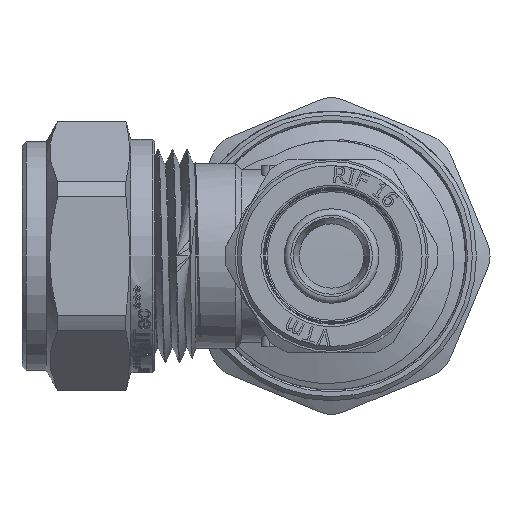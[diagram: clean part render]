
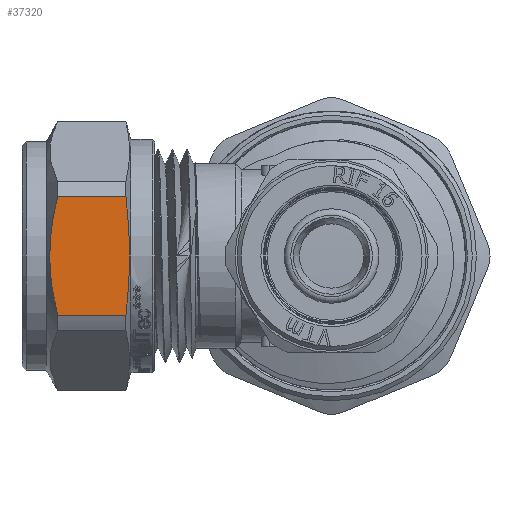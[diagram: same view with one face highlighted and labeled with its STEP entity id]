
A CAD part, left-side view. The second image highlights one B-rep face of the part: STEP entity #37320.
In plain terms, the highlighted planar face has unit normal (-1, 0, 0).
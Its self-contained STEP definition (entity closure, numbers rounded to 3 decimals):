
#132=(
BOUNDED_CURVE()
B_SPLINE_CURVE(2,(#83810,#83811,#83812),.UNSPECIFIED.,.F.,.F.)
B_SPLINE_CURVE_WITH_KNOTS((3,3),(0.,0.739),.UNSPECIFIED.)
CURVE()
GEOMETRIC_REPRESENTATION_ITEM()
RATIONAL_B_SPLINE_CURVE((1.,1.057,1.057))
REPRESENTATION_ITEM('')
);
#133=(
BOUNDED_CURVE()
B_SPLINE_CURVE(2,(#83816,#83817,#83818),.UNSPECIFIED.,.F.,.F.)
B_SPLINE_CURVE_WITH_KNOTS((3,3),(0.745,1.489),
 .UNSPECIFIED.)
CURVE()
GEOMETRIC_REPRESENTATION_ITEM()
RATIONAL_B_SPLINE_CURVE((1.057,1.057,1.))
REPRESENTATION_ITEM('')
);
#134=(
BOUNDED_CURVE()
B_SPLINE_CURVE(2,(#83820,#83821,#83822),.UNSPECIFIED.,.F.,.F.)
B_SPLINE_CURVE_WITH_KNOTS((3,3),(0.,0.745),.UNSPECIFIED.)
CURVE()
GEOMETRIC_REPRESENTATION_ITEM()
RATIONAL_B_SPLINE_CURVE((1.,1.057,1.057))
REPRESENTATION_ITEM('')
);
#135=(
BOUNDED_CURVE()
B_SPLINE_CURVE(2,(#83825,#83826,#83827),.UNSPECIFIED.,.F.,.F.)
B_SPLINE_CURVE_WITH_KNOTS((3,3),(0.739,1.479),
 .UNSPECIFIED.)
CURVE()
GEOMETRIC_REPRESENTATION_ITEM()
RATIONAL_B_SPLINE_CURVE((1.057,1.057,1.))
REPRESENTATION_ITEM('')
);
#669=PLANE('',#38773);
#4752=FACE_OUTER_BOUND('',#6921,.T.);
#6921=EDGE_LOOP('',(#34017,#34018,#34019,#34020,#34021,#34022));
#11793=LINE('',#83814,#14211);
#11794=LINE('',#83824,#14212);
#14211=VECTOR('',#44183,10.);
#14212=VECTOR('',#44184,10.);
#17760=VERTEX_POINT('',#83808);
#17761=VERTEX_POINT('',#83809);
#17762=VERTEX_POINT('',#83813);
#17763=VERTEX_POINT('',#83815);
#17764=VERTEX_POINT('',#83819);
#17765=VERTEX_POINT('',#83823);
#23293=EDGE_CURVE('',#17760,#17761,#132,.T.);
#23294=EDGE_CURVE('',#17762,#17760,#11793,.T.);
#23295=EDGE_CURVE('',#17763,#17762,#133,.T.);
#23296=EDGE_CURVE('',#17764,#17763,#134,.T.);
#23297=EDGE_CURVE('',#17765,#17764,#11794,.T.);
#23298=EDGE_CURVE('',#17761,#17765,#135,.T.);
#34017=ORIENTED_EDGE('',*,*,#23293,.F.);
#34018=ORIENTED_EDGE('',*,*,#23294,.F.);
#34019=ORIENTED_EDGE('',*,*,#23295,.F.);
#34020=ORIENTED_EDGE('',*,*,#23296,.F.);
#34021=ORIENTED_EDGE('',*,*,#23297,.F.);
#34022=ORIENTED_EDGE('',*,*,#23298,.F.);
#37320=ADVANCED_FACE('',(#4752),#669,.F.);
#38773=AXIS2_PLACEMENT_3D('',#83807,#44181,#44182);
#44181=DIRECTION('center_axis',(1.,0.,0.));
#44182=DIRECTION('ref_axis',(0.,0.,1.));
#44183=DIRECTION('',(0.,-1.,0.));
#44184=DIRECTION('',(0.,1.,0.));
#83807=CARTESIAN_POINT('Origin',(-15.,38.485,-7.454));
#83808=CARTESIAN_POINT('',(-15.,25.579,7.38));
#83809=CARTESIAN_POINT('',(-15.,25.119,0.));
#83810=CARTESIAN_POINT('Ctrl Pts',(-15.,25.579,7.38));
#83811=CARTESIAN_POINT('Ctrl Pts',(-15.,25.119,3.49));
#83812=CARTESIAN_POINT('Ctrl Pts',(-15.,25.119,0.));
#83813=CARTESIAN_POINT('',(-15.,34.06,7.38));
#83814=CARTESIAN_POINT('',(-15.,29.82,7.38));
#83815=CARTESIAN_POINT('',(-15.,35.052,0.));
#83816=CARTESIAN_POINT('Ctrl Pts',(-15.,35.052,0.));
#83817=CARTESIAN_POINT('Ctrl Pts',(-15.,35.052,3.49));
#83818=CARTESIAN_POINT('Ctrl Pts',(-15.,34.06,7.38));
#83819=CARTESIAN_POINT('',(-15.,34.06,-7.38));
#83820=CARTESIAN_POINT('Ctrl Pts',(-15.,34.06,-7.38));
#83821=CARTESIAN_POINT('Ctrl Pts',(-15.,35.052,-3.49));
#83822=CARTESIAN_POINT('Ctrl Pts',(-15.,35.052,0.));
#83823=CARTESIAN_POINT('',(-15.,25.579,-7.38));
#83824=CARTESIAN_POINT('',(-15.,29.82,-7.38));
#83825=CARTESIAN_POINT('Ctrl Pts',(-15.,25.119,0.));
#83826=CARTESIAN_POINT('Ctrl Pts',(-15.,25.119,-3.49));
#83827=CARTESIAN_POINT('Ctrl Pts',(-15.,25.579,-7.38));
